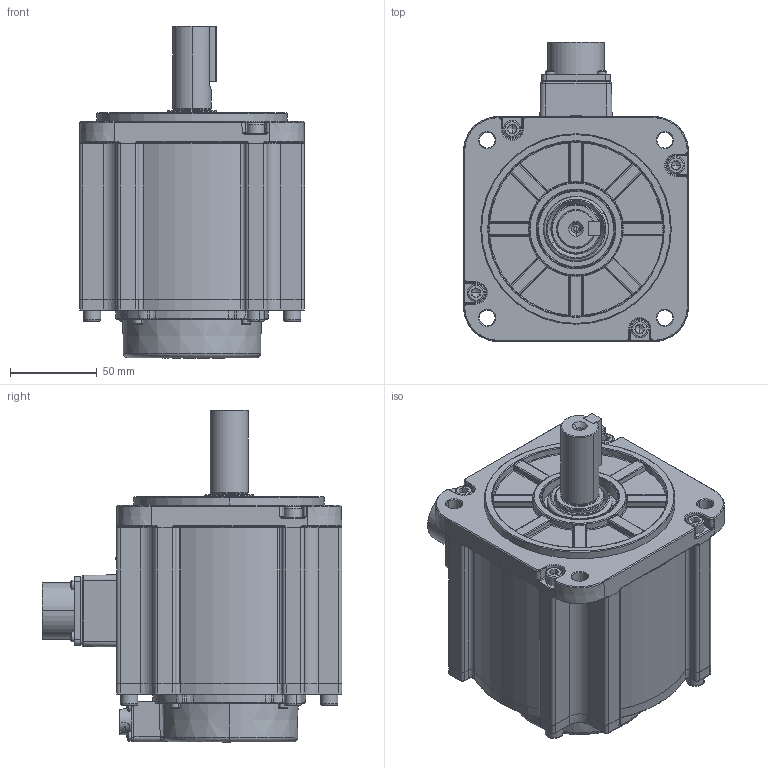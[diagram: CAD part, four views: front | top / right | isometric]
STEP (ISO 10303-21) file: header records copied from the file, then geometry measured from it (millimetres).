
FILE_DESCRIPTION (( 'STEP AP203' ), '1' );
FILE_NAME ('4031308-[][][][]_130µç»ú_DM1M-09A130[]8S_A0.STEP', '2020-07-06T07:37:18', ( '' ), ( '' ), 'SwSTEP 2.0', 'SolidWorks 2018', '' );
FILE_SCHEMA (( 'CONFIG_CONTROL_DESIGN' ));
Length unit declared in the file: millimetre
Products named in the file (1): 4031308-[][][][]_130萇儂_DM1M-09A130[]8S_A0
Bounding box: 130 x 173 x 191.7 mm (x, y, z)
Surface area: 140565.1 mm2 (no closed solid volume)
Topology: 0 solids, 47 shells, 1279 faces, 3834 edges, 2476 vertices
Faces by surface type: plane 432, cylinder 303, bspline 210, cone 162, torus 140, sphere 32
Entity records: 51442 total; most frequent: CARTESIAN_POINT 18908, DIRECTION 6693, ORIENTED_EDGE 6444, EDGE_CURVE 3780, AXIS2_PLACEMENT_3D 2548, VERTEX_POINT 2474, VECTOR 1597, LINE 1597
